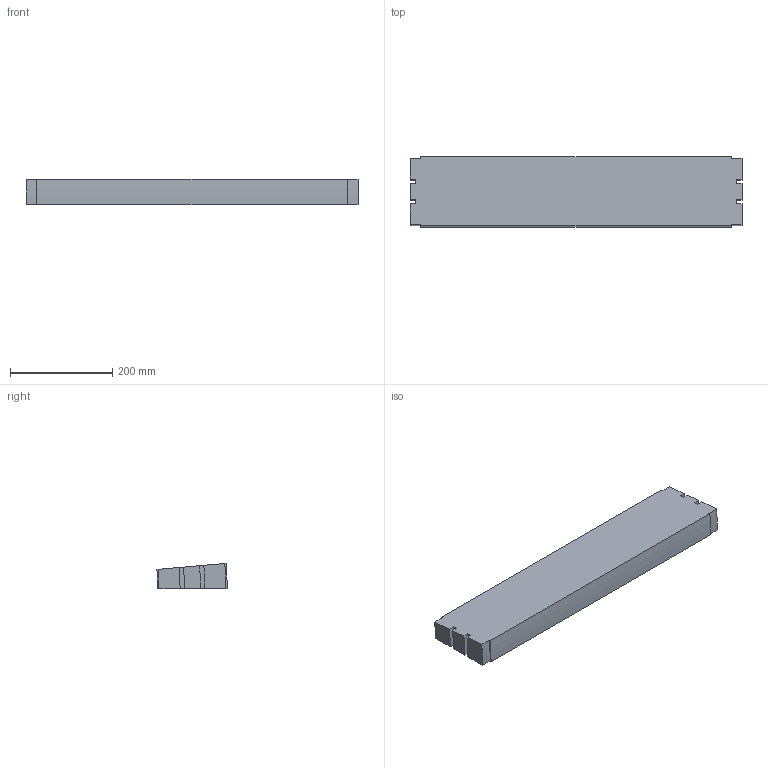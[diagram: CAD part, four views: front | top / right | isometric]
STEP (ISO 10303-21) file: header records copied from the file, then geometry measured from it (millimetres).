
FILE_DESCRIPTION (( 'STEP AP214' ), '1' );
FILE_NAME ('02.150V05.650.N FS-650-MTC-150 Bocht verticaal 5°.STEP', '2013-03-29T13:25:29', ( 'Gebruiker' ), ( '' ), 'SwSTEP 2.0', 'SolidWorks 2012', '' );
FILE_SCHEMA (( 'AUTOMOTIVE_DESIGN' ));
Length unit declared in the file: millimetre
Products named in the file (1): 02.150V05.650.N FS-650-MTC-150 Bocht verticaal 5°
Bounding box: 650.5 x 137.64 x 49.5 mm (x, y, z)
Volume: 3834662.9 mm3; surface area: 248242.8 mm2
Topology: 1 solids, 1 shells, 30 faces, 84 edges, 56 vertices
Faces by surface type: plane 16, cylinder 14
Entity records: 1010 total; most frequent: DIRECTION 174, CARTESIAN_POINT 171, ORIENTED_EDGE 168, EDGE_CURVE 84, AXIS2_PLACEMENT_3D 59, VERTEX_POINT 56, LINE 56, VECTOR 56
